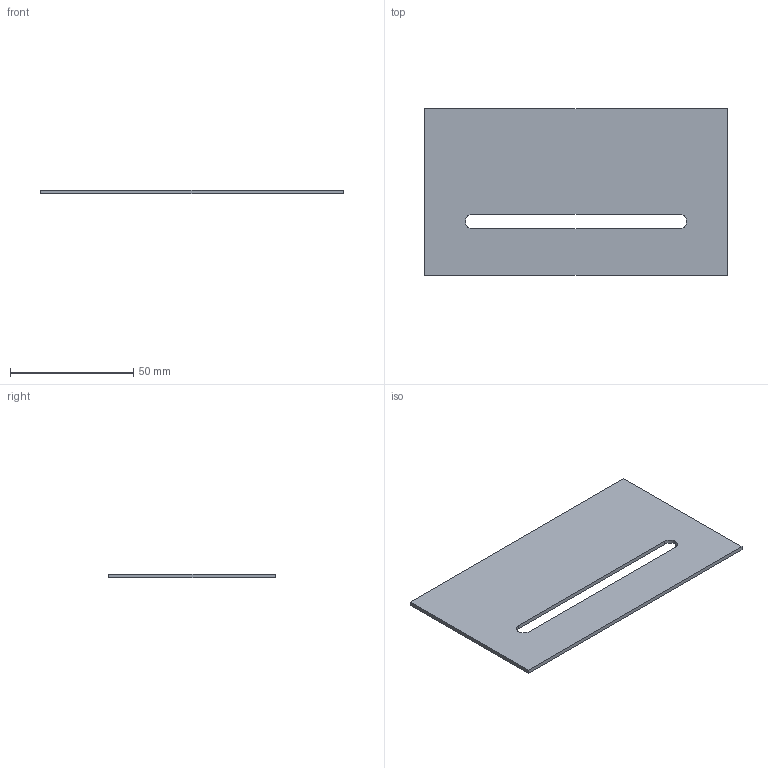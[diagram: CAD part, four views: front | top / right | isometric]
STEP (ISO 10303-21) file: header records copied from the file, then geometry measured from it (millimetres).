
FILE_DESCRIPTION(('Open CASCADE Model'),'2;1');
FILE_NAME('Open CASCADE Shape Model','2026-09-29T12:48:02',('Author'),( 'Open CASCADE'),'Open CASCADE STEP processor 7.9','Open CASCADE 7.9' ,'Unknown');
FILE_SCHEMA(('AUTOMOTIVE_DESIGN { 1 0 10303 214 1 1 1 1 }'));
Length unit declared in the file: millimetre
Products named in the file (1): Open CASCADE STEP translator 7.9 9
Bounding box: 123 x 67.85 x 1.6 mm (x, y, z)
Volume: 12501.2 mm3; surface area: 16536.2 mm2
Topology: 1 solids, 1 shells, 14 faces, 36 edges, 24 vertices
Faces by surface type: plane 10, cylinder 4
Entity records: 894 total; most frequent: CARTESIAN_POINT 163, DIRECTION 130, LINE 76, VECTOR 76, ORIENTED_EDGE 72, PCURVE 72, DEFINITIONAL_REPRESENTATION 72, EDGE_CURVE 36
